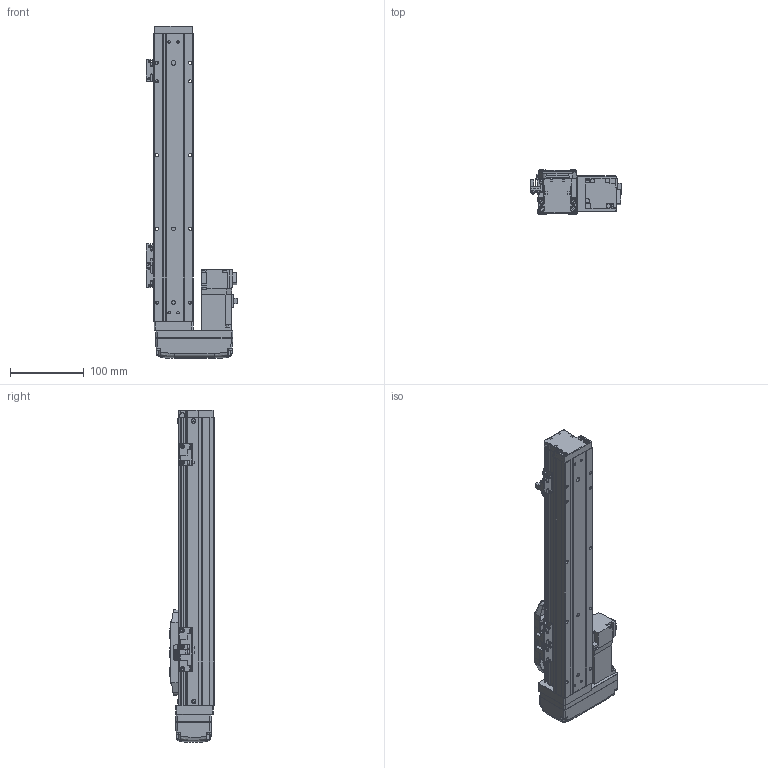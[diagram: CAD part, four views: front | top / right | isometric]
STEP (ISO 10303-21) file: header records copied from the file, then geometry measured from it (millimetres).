
FILE_DESCRIPTION (( 'STEP AP203' ), '1' );
FILE_NAME ('GTH5-250-BR-M10-C4.step', '2022-09-23T00:50:27', ( '微软用户' ), ( '微软中国' ), 'SwSTEP 2.0', 'SolidWorks 2020', '' );
FILE_SCHEMA (( 'CONFIG_CONTROL_DESIGN' ));
Length unit declared in the file: millimetre
Products named in the file (19): GBT 70.3-M3℅6; GBT 70.1-M3℅6; GTH50-027-1_BTHA50-027-2; BTH-M3X5X6; GBT96.1-2002 3×0.8; GTH50-026; GTH50-001_250; GTH50-024; GTH5-250-BR-M10-C4; GBT 70.1-M4×16; GBT 70.1-M2.5×6; GTH50-003; GTH50-028; GTH50-006; GTH50-013; GTH50-022-1; GTH50-004; GTH50-023; HG-KR13
Assembly tree (57 placements, depth 2):
  GTH5-250-BR-M10-C4
    GTH50-006
    GTH50-004
    GBT 70.3-M3℅6  x4
    BTH-M3X5X6  x8
    GTH50-001_250
    GBT 70.1-M4×16  x8
    GTH50-003
    GTH50-013
    GTH50-023  x3
    GBT 70.1-M3℅6  x12
    GBT96.1-2002 3×0.8  x6
    GTH50-024  x3
    GBT 70.1-M2.5×6  x2
    GTH50-028  x2
    GTH50-022-1
    HG-KR13
    GTH50-027-1_BTHA50-027-2
    GTH50-026
Bounding box: 123.6 x 60 x 450 mm (x, y, z)
Volume: 1101107.1 mm3; surface area: 219830.6 mm2
Topology: 59 solids, 59 shells, 2148 faces, 4980 edges, 3052 vertices
Faces by surface type: plane 1142, cylinder 577, cone 219, torus 162, bspline 40, sphere 8
Entity records: 39716 total; most frequent: CARTESIAN_POINT 7875, DIRECTION 6101, ORIENTED_EDGE 5874, EDGE_CURVE 2937, AXIS2_PLACEMENT_3D 2116, LINE 1869, VECTOR 1869, VERTEX_POINT 1854
